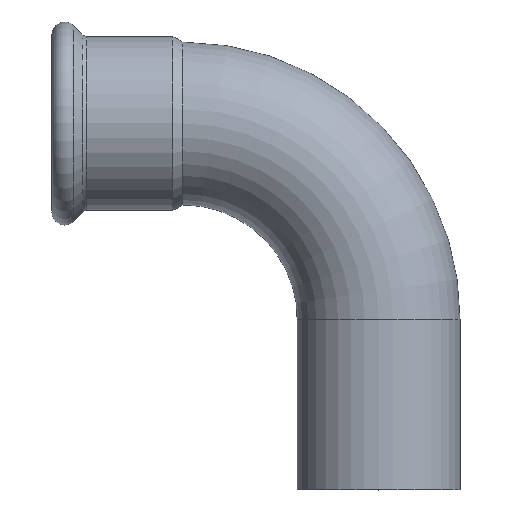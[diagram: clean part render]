
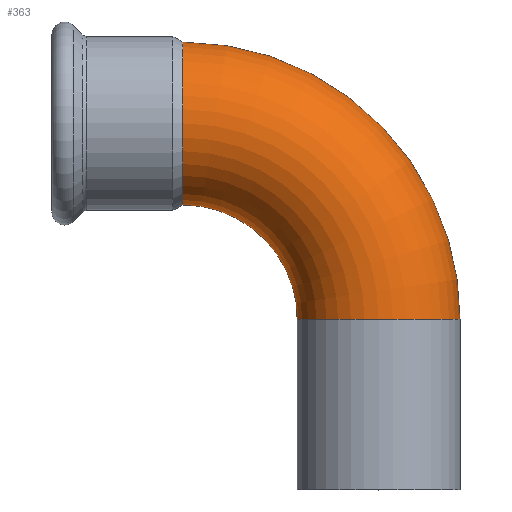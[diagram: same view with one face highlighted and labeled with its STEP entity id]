
A CAD part, top view. The second image highlights one B-rep face of the part: STEP entity #363.
In plain terms, the highlighted toroidal (fillet/blend) face has major radius 77 mm and minor radius 32 mm.
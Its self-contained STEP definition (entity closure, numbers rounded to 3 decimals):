
#320=CARTESIAN_POINT('',(77.0,-77.,32.));
#321=VERTEX_POINT('',#320);
#322=CARTESIAN_POINT('',(77.0,-77.,0.));
#323=DIRECTION('',(0.0,1.0,0.0));
#324=DIRECTION('',(0.0,0.0,1.0));
#325=AXIS2_PLACEMENT_3D('',#322,#323,#324);
#326=CIRCLE('',#325,32.);
#327=EDGE_CURVE('',#321,#321,#326,.T.);
#344=CARTESIAN_POINT('',(0.,-77.0,0.0));
#345=DIRECTION('',(0.0,0.0,-1.0));
#346=DIRECTION('',(-1.0,0.0,0.0));
#347=AXIS2_PLACEMENT_3D('',#344,#345,#346);
#348=TOROIDAL_SURFACE('',#347,77.0,32.);
#349=ORIENTED_EDGE('',*,*,#327,.T.);
#350=EDGE_LOOP('',(#349));
#351=FACE_OUTER_BOUND('',#350,.T.);
#352=CARTESIAN_POINT('',(0.,32.,0.0));
#353=VERTEX_POINT('',#352);
#354=CARTESIAN_POINT('',(0.,0.,0.0));
#355=DIRECTION('',(1.0,0.0,0.0));
#356=DIRECTION('',(0.0,1.0,0.0));
#357=AXIS2_PLACEMENT_3D('',#354,#355,#356);
#358=CIRCLE('',#357,32.);
#359=EDGE_CURVE('',#353,#353,#358,.T.);
#360=ORIENTED_EDGE('',*,*,#359,.T.);
#361=EDGE_LOOP('',(#360));
#362=FACE_BOUND('',#361,.T.);
#363=ADVANCED_FACE('',(#351,#362),#348,.T.);
